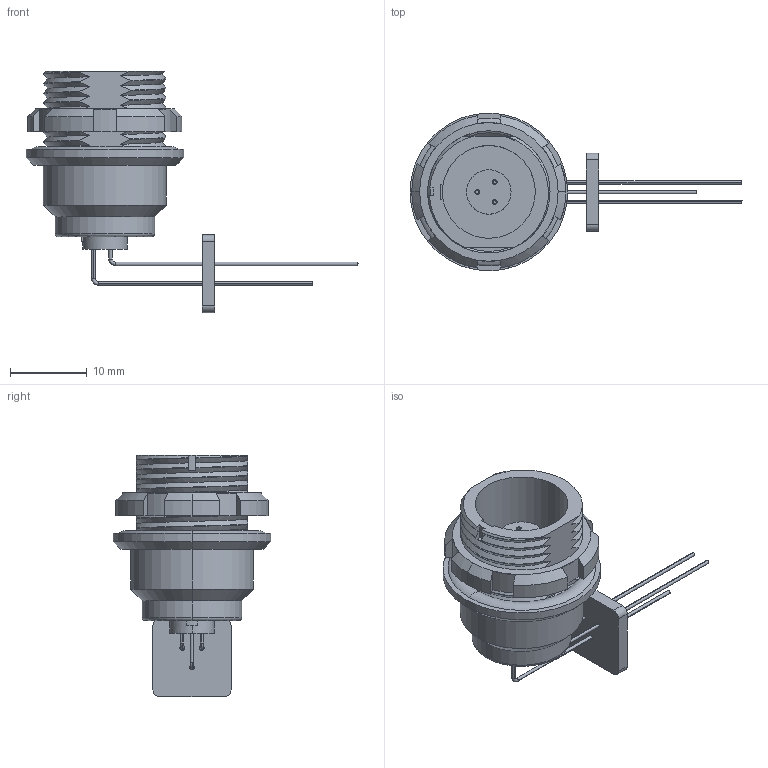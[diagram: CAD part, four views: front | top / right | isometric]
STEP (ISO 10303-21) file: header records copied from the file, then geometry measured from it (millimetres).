
FILE_DESCRIPTION (( 'STEP AP214' ), '1' );
FILE_NAME ('821KR03-213R001.STEP', '2016-01-27T16:36:58', ( '' ), ( '' ), 'SwSTEP 2.0', 'SolidWorks 2014', '' );
FILE_SCHEMA (( 'AUTOMOTIVE_DESIGN' ));
Length unit declared in the file: inch
Products named in the file (1): 821KR03-213R001
Bounding box: 43.21 x 20.52 x 31.42 mm (x, y, z)
Volume: 3633.6 mm3; surface area: 3284.7 mm2
Topology: 5 solids, 5 shells, 183 faces, 502 edges, 327 vertices
Faces by surface type: cylinder 73, plane 50, bspline 48, cone 6, torus 6
Entity records: 18740 total; most frequent: CARTESIAN_POINT 13489, ORIENTED_EDGE 1004, DIRECTION 764, EDGE_CURVE 502, VERTEX_POINT 327, AXIS2_PLACEMENT_3D 295, EDGE_LOOP 205, ADVANCED_FACE 183
